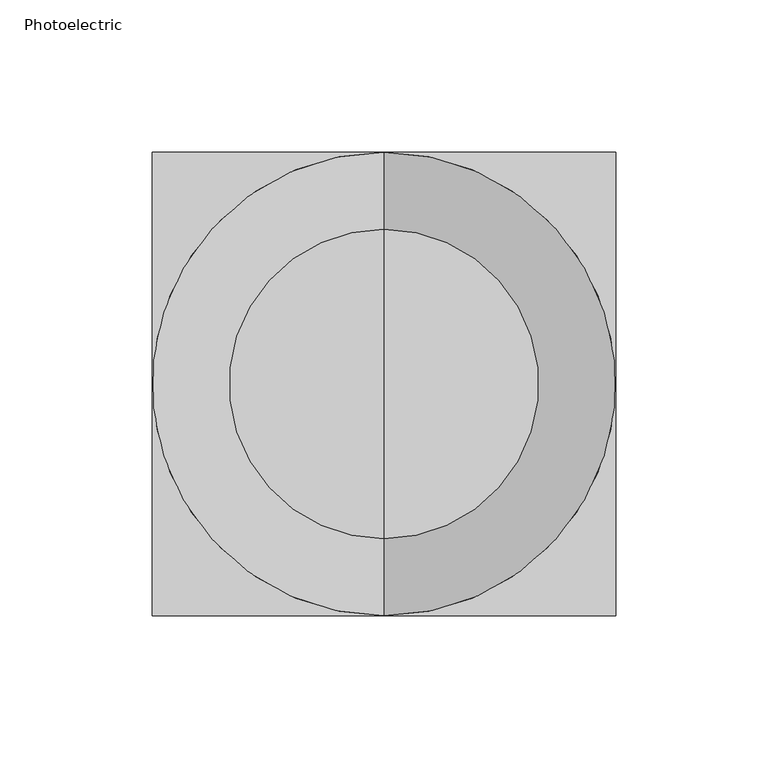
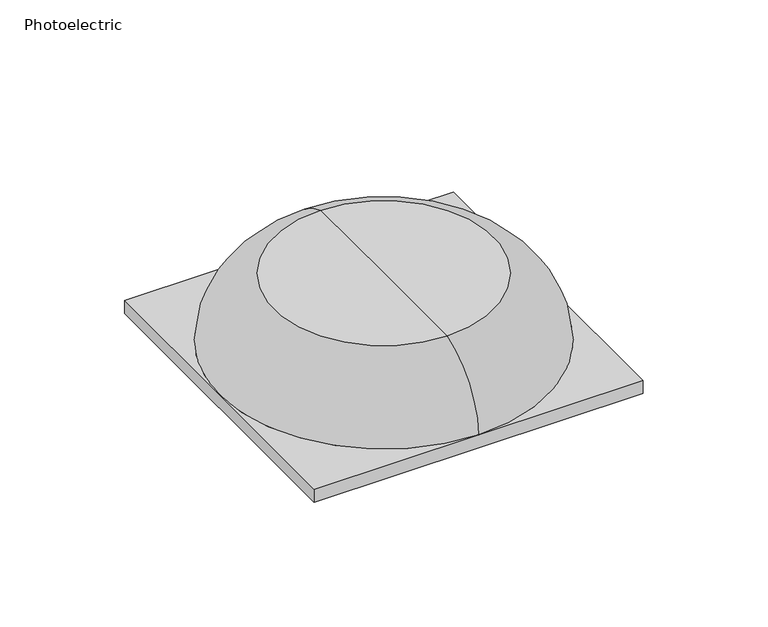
"""IFC4 building model written with IfcOpenShell, lengths in millimetres: alarm geometry, FireBIM Tutorial Smoke Detector (Ceiling) : Photoelectric."""

from ifc_helpers import new_model, si_unit, point, frame, origin, place, context, project, spatial, circle_curve, ellipse_curve, trimmed, source, transform, mapped, element, save
from ifc_brep_helpers import plane_surface, revolved_surface, advanced_brep


def photoelectric_866833d5(model_context):
    return source(origin(), model_context, "Body", "AdvancedBrep", [
        advanced_brep(
        [(0.0, 0.0, 33.02), (0.0, 50.8, 33.02), (0.0, -50.8, 33.02), (76.2, 76.2, -6.35), (76.2, -76.2, -6.35), (-76.2, -76.2, -6.35), (-76.2, 76.2, -6.35), (76.2, 76.2, 0.0), (0.0, 76.2, 0.0), (76.2, -5.6e-06, 0.0), (-76.2, 76.2, 0.0), (-76.2, 5.6e-06, 0.0), (-76.2, -76.2, 0.0), (0.0, -76.2, 0.0), (76.2, -76.2, 0.0)],
        [
            (0, 1),
            (1, 2, circle_curve(frame((0.0, 0.0, 33.02), z_axis=(0.0, 0.0, 1.0), x_axis=(0.0, 1.0, 0.0)), 50.8)),
            (2, 0),
            (2, 1, circle_curve(frame((0.0, 0.0, 33.02), z_axis=(0.0, 0.0, 1.0), x_axis=(0.0, 1.0, 0.0)), 50.8)),
            (3, 4),
            (4, 5),
            (5, 6),
            (6, 3),
            (7, 8),
            (8, 9, circle_curve(frame((0.0, 0.0, 0.0), z_axis=(0.0, 0.0, -1.0), x_axis=(0.0, 1.0, 0.0)), 76.2)),
            (9, 7),
            (8, 10),
            (10, 11),
            (11, 8, circle_curve(frame((0.0, 0.0, 0.0), z_axis=(0.0, 0.0, -1.0), x_axis=(0.0, 1.0, 0.0)), 76.2)),
            (12, 13),
            (13, 11, circle_curve(frame((0.0, 0.0, 0.0), z_axis=(0.0, 0.0, -1.0), x_axis=(0.0, 1.0, 0.0)), 76.2)),
            (11, 12),
            (13, 14),
            (14, 9),
            (9, 13, circle_curve(frame((0.0, 0.0, 0.0), z_axis=(0.0, 0.0, -1.0), x_axis=(0.0, 1.0, 0.0)), 76.2)),
            (6, 10),
            (7, 3),
            (5, 12),
            (4, 14),
            (1, 8, circle_curve(frame((0.0, 40.0797542, -1.5055737), z_axis=(-1.0, 0.0, 0.0), x_axis=(0.0, 1.0, 0.0)), 36.1516101)),
            (13, 2, circle_curve(frame((0.0, -40.0797542, -1.5055737), z_axis=(-1.0, 0.0, 0.0), x_axis=(0.0, -1.0, 0.0)), 36.1516101)),
        ],
        [
            plane_surface(frame((0.0, 0.0, 33.02), z_axis=(0.0, 0.0, 1.0), x_axis=(0.0, 1.0, 0.0))),
            plane_surface(frame((-59.1374921, 76.2, -6.35), z_axis=(0.0, 0.0, -1.0), x_axis=(1.0, 0.0, 0.0))),
            plane_surface(frame((-59.1374921, 76.2, 0.0), z_axis=(0.0, 0.0, 1.0), x_axis=(-1.0, 0.0, 0.0))),
            plane_surface(frame((76.2, 76.2, 0.0), z_axis=(0.0, 1.0, 0.0), x_axis=(0.0, 0.0, -1.0))),
            plane_surface(frame((-76.2, 76.2, 0.0), z_axis=(-1.0, 0.0, 0.0), x_axis=(0.0, 0.0, -1.0))),
            plane_surface(frame((-76.2, -76.2, 0.0), z_axis=(0.0, -1.0, 0.0), x_axis=(0.0, 0.0, -1.0))),
            plane_surface(frame((76.2, -76.2, 0.0), z_axis=(1.0, 0.0, 0.0), x_axis=(0.0, 0.0, -1.0))),
            revolved_surface(trimmed(ellipse_curve(frame((0.0, 40.0797542, -1.5055737), z_axis=(1.0, 0.0, 0.0), x_axis=(0.0, 1.0, 0.0)), 36.1516101, 36.1516101), [point((0.0, 76.2, 0.0))], [point((0.0, 50.8, 33.02))], True, "CARTESIAN"), (0.0, 0.0, 90.17), (0.0, 0.0, 1.0)),
        ],
        [
            (0, [[1, 2, 3]]),
            (0, [[-1, -3, 4]]),
            (1, [[5, 6, 7, 8]]),
            (2, [[9, 10, 11]]),
            (2, [[12, 13, 14]]),
            (2, [[15, 16, 17]]),
            (2, [[18, 19, 20]]),
            (3, [[-8, 21, -12, -9, 22]]),
            (4, [[-7, 23, -17, -13, -21]]),
            (5, [[-6, 24, -18, -15, -23]]),
            (6, [[-5, -22, -11, -19, -24]]),
            (7, [[-2, 25, -14, -16, 26]]),
            (7, [[-4, -26, -20, -10, -25]]),
        ],
    ),
    ])


if __name__ == "__main__":
    model = new_model("IFC4")
    model_context = context("Model", 3, world=origin())
    ifc_project = project(units=[si_unit("LENGTHUNIT", "METRE", prefix="MILLI")], contexts=[model_context])
    site = spatial("IfcSite", under=ifc_project)
    building = spatial("IfcBuilding", under=site)
    placement = place(None, origin())
    photoelectric_shape = photoelectric_866833d5(model_context)
    element("IfcAlarm", 1, ObjectType="FireBIM Tutorial Smoke Detector (Ceiling) : Photoelectric", at=placement, inside=building, context=model_context, shape_type="MappedRepresentation", body=[
        mapped(photoelectric_shape, transform((0.0, 0.0, 0.0), x_axis=(1.0, 0.0, 0.0), y_axis=(0.0, 1.0, 0.0), z_axis=(0.0, 0.0, 1.0))),
    ])
    save(model, "model.ifc")
